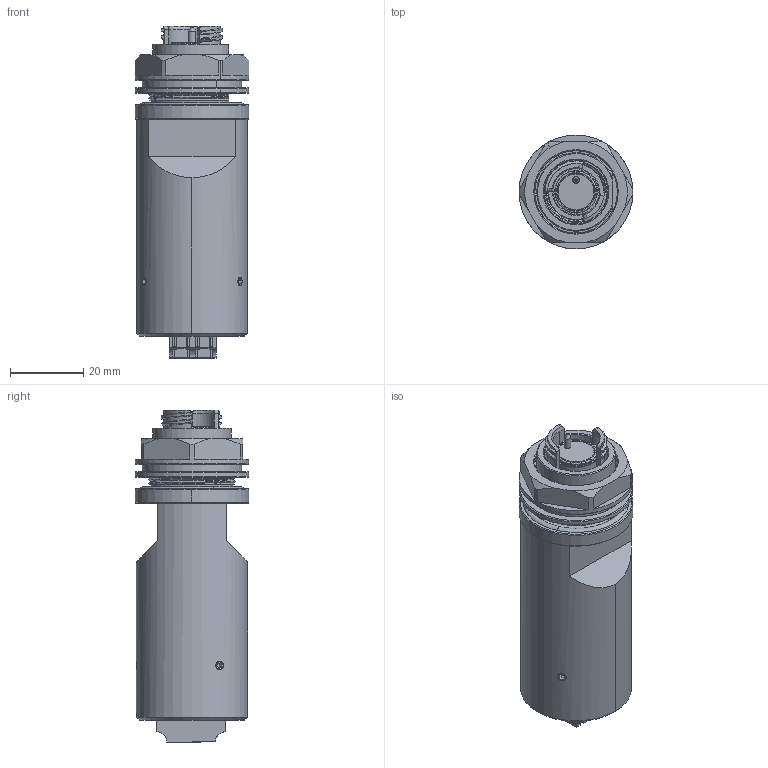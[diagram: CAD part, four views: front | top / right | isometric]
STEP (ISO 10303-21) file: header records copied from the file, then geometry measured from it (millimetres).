
FILE_DESCRIPTION (( 'STEP AP214' ), '1' );
FILE_NAME ('QMICROLC-RJXX-04XX-XX.STEP', '2025-05-02T23:42:42', ( '' ), ( '' ), 'SwSTEP 2.0', 'SolidWorks 2024', '' );
FILE_SCHEMA (( 'AUTOMOTIVE_DESIGN' ));
Length unit declared in the file: inch
Products named in the file (1): QMICROLC-RJXX-04XX-XX
Bounding box: 31 x 31 x 90.37 mm (x, y, z)
Volume: 50641.5 mm3; surface area: 25196.9 mm2
Topology: 11 solids, 11 shells, 895 faces, 2383 edges, 1527 vertices
Faces by surface type: plane 430, cylinder 235, cone 180, bspline 34, torus 16
Entity records: 36383 total; most frequent: CARTESIAN_POINT 14130, ORIENTED_EDGE 4754, DIRECTION 4478, EDGE_CURVE 2377, VERTEX_POINT 1527, AXIS2_PLACEMENT_3D 1523, VECTOR 1432, LINE 1432
